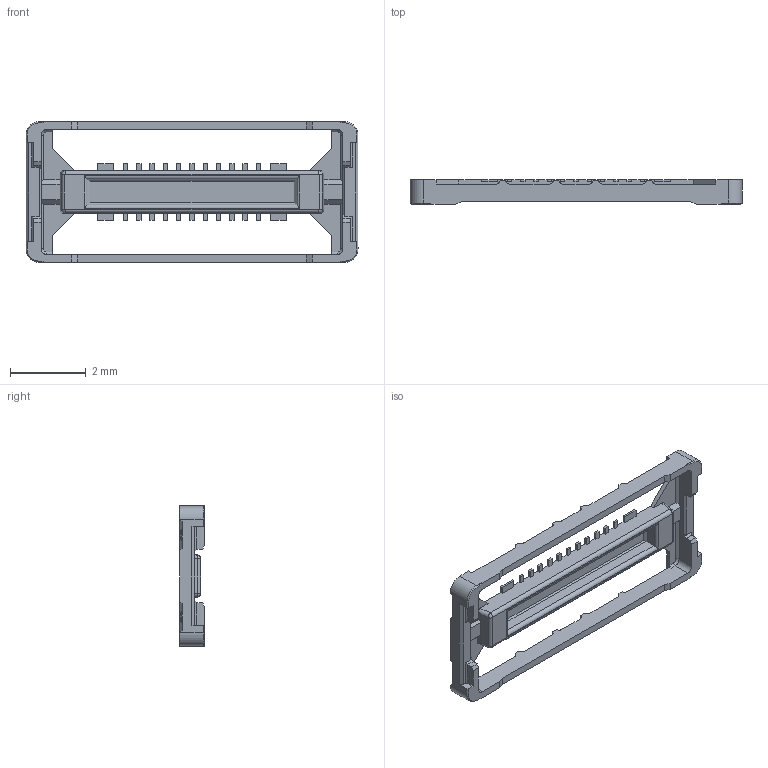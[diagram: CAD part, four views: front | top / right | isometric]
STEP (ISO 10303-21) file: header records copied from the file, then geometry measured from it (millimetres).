
FILE_DESCRIPTION (( 'STEP AP203' ), '1' );
FILE_NAME ('20697-022E-01C NOVASTACK 35-HDP PLUG ASSY STEP R1 ALL.STEP', '2026-09-08T05:02:06', ( '' ), ( '' ), 'SwSTEP 2.0', 'SolidWorks 2025', '' );
FILE_SCHEMA (( 'CONFIG_CONTROL_DESIGN' ));
Length unit declared in the file: millimetre
Products named in the file (1): 20697-022E-01C NOVASTACK 35-HDP PLUG ASSY STEP R1 ALL
Bounding box: 8.74 x 0.65 x 3.7 mm (x, y, z)
Volume: 6.1 mm3; surface area: 71.3 mm2
Topology: 1 solids, 1 shells, 355 faces, 1020 edges, 664 vertices
Faces by surface type: plane 279, cylinder 64, cone 8, bspline 4
Entity records: 11655 total; most frequent: CARTESIAN_POINT 2308, ORIENTED_EDGE 2032, DIRECTION 1804, EDGE_CURVE 1016, LINE 868, VECTOR 868, VERTEX_POINT 664, AXIS2_PLACEMENT_3D 468
